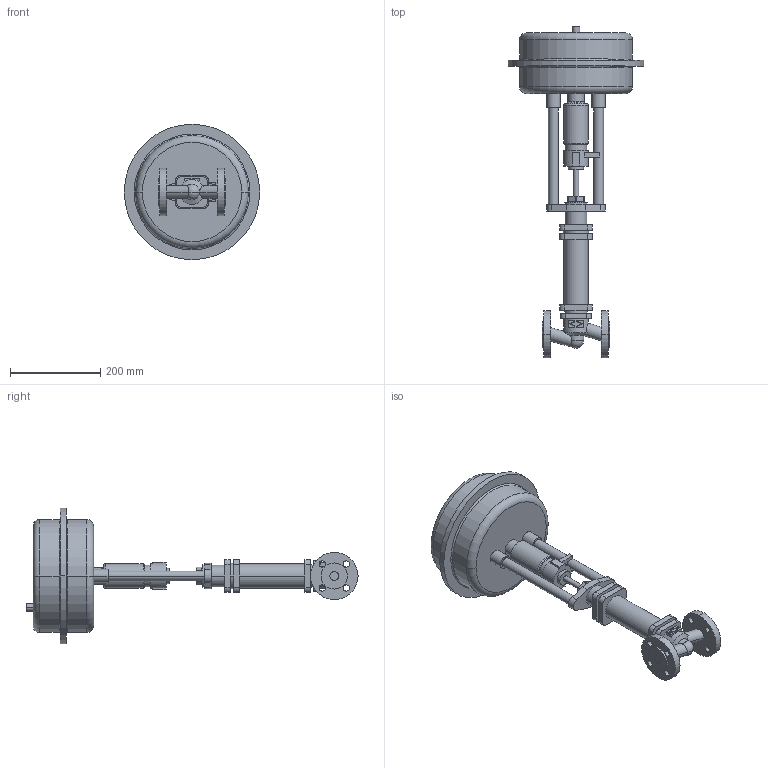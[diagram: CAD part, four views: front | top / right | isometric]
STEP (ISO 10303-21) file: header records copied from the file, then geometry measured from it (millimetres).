
FILE_DESCRIPTION(('OneSpaceDesigner STEP Export'),'2;1');
FILE_NAME('c000002075.stp','2005-12-12T11:14:45',(''),(''),'OneSpace Designer STEP processor for AP203 (Solid Model)','OneSpace Designer 13.20A 18-Aug-2005 (C) CoCreate Software GmbH','');
FILE_SCHEMA(('CONFIG_CONTROL_DESIGN'));
Length unit declared in the file: millimetre
Products named in the file (1): 1
Bounding box: 300 x 735.1 x 300 mm (x, y, z)
Volume: 8544576.8 mm3; surface area: 452646.8 mm2
Topology: 1 solids, 1 shells, 215 faces, 530 edges, 346 vertices
Faces by surface type: cylinder 102, plane 89, torus 16, cone 6, sphere 2
Entity records: 6005 total; most frequent: CARTESIAN_POINT 1138, ORIENTED_EDGE 1056, DIRECTION 915, EDGE_CURVE 528, VERTEX_POINT 346, AXIS2_PLACEMENT_3D 328, EDGE_LOOP 266, VECTOR 259
